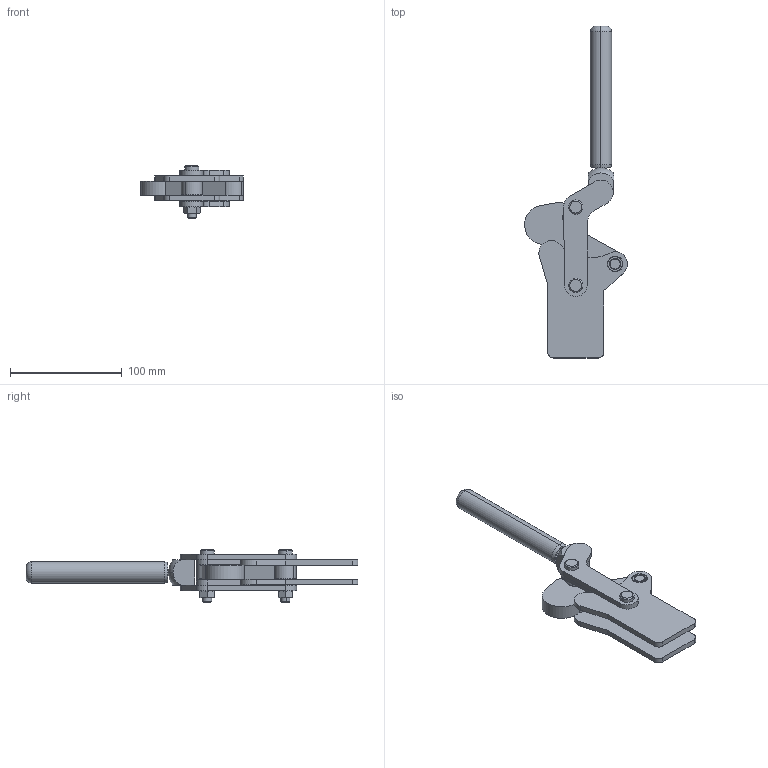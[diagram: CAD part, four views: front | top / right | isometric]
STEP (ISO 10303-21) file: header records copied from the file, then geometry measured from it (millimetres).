
FILE_DESCRIPTION (( 'STEP AP203' ), '1' );
FILE_NAME ('KFU-05 R.STEP', '2012-11-22T18:48:00', ( 'Ricardo' ), ( '' ), 'SwSTEP 2.0', 'SolidWorks 2012', '' );
FILE_SCHEMA (( 'CONFIG_CONTROL_DESIGN' ));
Length unit declared in the file: millimetre
Products named in the file (12): 15.20004_Montagem; 08.10011_Montagem; 15.10012_Montagem; 03.15006_Montagem; KFU-05 R; 02.11018_Montagem; 16.20012; 11.50002; 12.50005; 05.20010; 05.20048; 01.20008
Assembly tree (25 placements, depth 2):
  KFU-05 R
    03.15006_Montagem
    15.10012_Montagem  x2
    08.10011_Montagem  x2
    15.20004_Montagem
    01.20008
    05.20048  x2
    05.20010  x8
    12.50005  x2
    11.50002  x2
    16.20012  x2
    02.11018_Montagem  x2
Bounding box: 91.98 x 296.97 x 47 mm (x, y, z)
Volume: 169845.8 mm3; surface area: 73456.7 mm2
Topology: 25 solids, 25 shells, 330 faces, 737 edges, 456 vertices
Faces by surface type: cylinder 141, plane 97, cone 88, sphere 2, torus 2
Entity records: 6382 total; most frequent: DIRECTION 904, CARTESIAN_POINT 902, ORIENTED_EDGE 724, AXIS2_PLACEMENT_3D 366, EDGE_CURVE 362, VERTEX_POINT 228, EDGE_LOOP 186, CIRCLE 178
